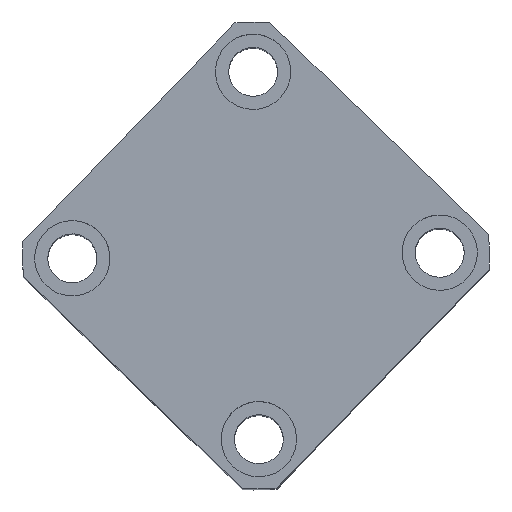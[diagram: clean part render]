
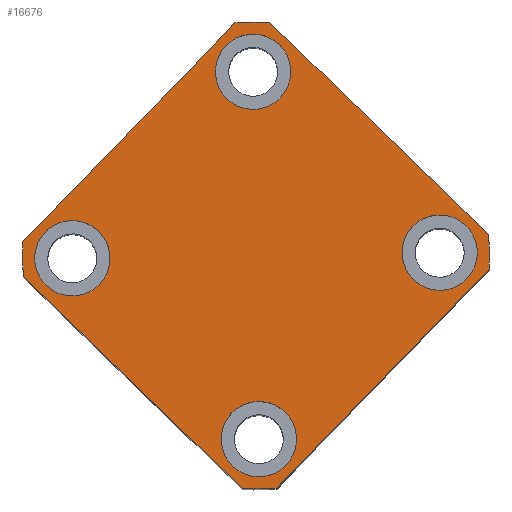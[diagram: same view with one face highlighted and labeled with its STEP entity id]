
A CAD part, top view. The second image highlights one B-rep face of the part: STEP entity #16676.
In plain terms, the highlighted planar face has unit normal (0, 0, 1) as drawn and (0, 0, -1) by its records, which use the part's own axes.
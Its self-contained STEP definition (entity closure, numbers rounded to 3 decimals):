
#100 = CARTESIAN_POINT ( 'NONE',  ( 44.5, 34.5, 0. ) ) ;
#189 = CARTESIAN_POINT ( 'NONE',  ( -34.5, 34.5, 0. ) ) ;
#232 = DIRECTION ( 'NONE',  ( 1., 0., 0. ) ) ;
#249 = CIRCLE ( 'NONE', #2261, 62. ) ;
#570 = DIRECTION ( 'NONE',  ( 1., 0., 0. ) ) ;
#724 = DIRECTION ( 'NONE',  ( -1., 0., 0. ) ) ;
#800 = DIRECTION ( 'NONE',  ( -1., 0., 0. ) ) ;
#943 = CARTESIAN_POINT ( 'NONE',  ( 34.5, 34.5, 0. ) ) ;
#957 = CARTESIAN_POINT ( 'NONE',  ( 44.5, -34.5, 0. ) ) ;
#1315 = CIRCLE ( 'NONE', #5889, 10. ) ;
#1361 = LINE ( 'NONE', #12590, #6019 ) ;
#1940 = DIRECTION ( 'NONE',  ( -1., 0., 0. ) ) ;
#2261 = AXIS2_PLACEMENT_3D ( 'NONE', #20902, #10550, #232 ) ;
#2577 = EDGE_CURVE ( 'NONE', #21728, #10516, #1315, .T. ) ;
#2611 = CARTESIAN_POINT ( 'NONE',  ( -34.5, -34.5, 0. ) ) ;
#2687 = DIRECTION ( 'NONE',  ( -1., 0., 0. ) ) ;
#2879 = CARTESIAN_POINT ( 'NONE',  ( -44.5, 34.5, 0. ) ) ;
#2984 = CIRCLE ( 'NONE', #15141, 62. ) ;
#3000 = EDGE_CURVE ( 'NONE', #13646, #13406, #15275, .T. ) ;
#3340 = VERTEX_POINT ( 'NONE', #12423 ) ;
#3439 = CIRCLE ( 'NONE', #16165, 10. ) ;
#3815 = FACE_BOUND ( 'NONE', #8290, .T. ) ;
#4185 = EDGE_CURVE ( 'NONE', #3340, #17961, #13912, .T. ) ;
#4347 = ORIENTED_EDGE ( 'NONE', *, *, #16322, .F. ) ;
#4373 = FACE_BOUND ( 'NONE', #19324, .T. ) ;
#4382 = DIRECTION ( 'NONE',  ( -1., 0., 0. ) ) ;
#4762 = AXIS2_PLACEMENT_3D ( 'NONE', #943, #12948, #2687 ) ;
#4823 = LINE ( 'NONE', #20859, #13343 ) ;
#4929 = VECTOR ( 'NONE', #21360, 1000. ) ;
#4934 = CARTESIAN_POINT ( 'NONE',  ( -34.5, -34.5, 0. ) ) ;
#5044 = EDGE_CURVE ( 'NONE', #21215, #3340, #17150, .T. ) ;
#5452 = DIRECTION ( 'NONE',  ( -1., 0., 0. ) ) ;
#5600 = VERTEX_POINT ( 'NONE', #10068 ) ;
#5838 = EDGE_CURVE ( 'NONE', #9718, #16899, #9382, .T. ) ;
#5889 = AXIS2_PLACEMENT_3D ( 'NONE', #2611, #14597, #4382 ) ;
#5930 = EDGE_CURVE ( 'NONE', #17961, #17036, #4823, .T. ) ;
#6019 = VECTOR ( 'NONE', #570, 1000. ) ;
#6203 = ORIENTED_EDGE ( 'NONE', *, *, #3000, .F. ) ;
#6292 = CARTESIAN_POINT ( 'NONE',  ( -24.5, 34.5, 0. ) ) ;
#6352 = AXIS2_PLACEMENT_3D ( 'NONE', #4934, #16889, #6671 ) ;
#6671 = DIRECTION ( 'NONE',  ( -1., 0., 0. ) ) ;
#6918 = DIRECTION ( 'NONE',  ( 0., 0., 1. ) ) ;
#7008 = AXIS2_PLACEMENT_3D ( 'NONE', #7095, #19091, #8792 ) ;
#7066 = AXIS2_PLACEMENT_3D ( 'NONE', #189, #12217, #1940 ) ;
#7095 = CARTESIAN_POINT ( 'NONE',  ( 0., 0., 0. ) ) ;
#7177 = ORIENTED_EDGE ( 'NONE', *, *, #16097, .F. ) ;
#7196 = CARTESIAN_POINT ( 'NONE',  ( 0., 0., 0. ) ) ;
#7393 = CARTESIAN_POINT ( 'NONE',  ( -34.5, 34.5, 0. ) ) ;
#7463 = DIRECTION ( 'NONE',  ( 0., 0., -1. ) ) ;
#7770 = EDGE_LOOP ( 'NONE', ( #8712, #21101 ) ) ;
#7833 = ORIENTED_EDGE ( 'NONE', *, *, #20006, .F. ) ;
#8290 = EDGE_LOOP ( 'NONE', ( #12618, #20536 ) ) ;
#8563 = CARTESIAN_POINT ( 'NONE',  ( 40.435, -47., 0. ) ) ;
#8712 = ORIENTED_EDGE ( 'NONE', *, *, #21129, .F. ) ;
#8792 = DIRECTION ( 'NONE',  ( 1., 0., 0. ) ) ;
#8942 = DIRECTION ( 'NONE',  ( 0., 0., 1. ) ) ;
#9089 = DIRECTION ( 'NONE',  ( -1., 0., 0. ) ) ;
#9376 = DIRECTION ( 'NONE',  ( 0., 1., 0. ) ) ;
#9382 = CIRCLE ( 'NONE', #7066, 10. ) ;
#9481 = LINE ( 'NONE', #17764, #4929 ) ;
#9718 = VERTEX_POINT ( 'NONE', #2879 ) ;
#10068 = CARTESIAN_POINT ( 'NONE',  ( 24.5, 34.5, 0. ) ) ;
#10516 = VERTEX_POINT ( 'NONE', #15284 ) ;
#10550 = DIRECTION ( 'NONE',  ( 0., 0., 1. ) ) ;
#10759 = EDGE_CURVE ( 'NONE', #21498, #21215, #18227, .T. ) ;
#11023 = EDGE_CURVE ( 'NONE', #16899, #9718, #3439, .T. ) ;
#11038 = DIRECTION ( 'NONE',  ( 0., 0., -1. ) ) ;
#11089 = CARTESIAN_POINT ( 'NONE',  ( 47., 47., 0. ) ) ;
#11115 = DIRECTION ( 'NONE',  ( 0., 0., -1. ) ) ;
#11330 = CIRCLE ( 'NONE', #6352, 10. ) ;
#11409 = VERTEX_POINT ( 'NONE', #14855 ) ;
#11575 = AXIS2_PLACEMENT_3D ( 'NONE', #17712, #7463, #19470 ) ;
#11756 = EDGE_LOOP ( 'NONE', ( #21519, #21333, #12517, #4347, #18384, #7833, #7177, #17388 ) ) ;
#11798 = CARTESIAN_POINT ( 'NONE',  ( -44.5, -34.5, 0. ) ) ;
#11948 = ORIENTED_EDGE ( 'NONE', *, *, #20889, .F. ) ;
#12052 = AXIS2_PLACEMENT_3D ( 'NONE', #21472, #11115, #800 ) ;
#12217 = DIRECTION ( 'NONE',  ( 0., 0., -1. ) ) ;
#12233 = EDGE_CURVE ( 'NONE', #17434, #5600, #18742, .T. ) ;
#12283 = EDGE_LOOP ( 'NONE', ( #20626, #18224 ) ) ;
#12390 = DIRECTION ( 'NONE',  ( 0., 0., 1. ) ) ;
#12423 = CARTESIAN_POINT ( 'NONE',  ( 47., 40.435, 0. ) ) ;
#12517 = ORIENTED_EDGE ( 'NONE', *, *, #10759, .F. ) ;
#12590 = CARTESIAN_POINT ( 'NONE',  ( -47., -47., 0. ) ) ;
#12618 = ORIENTED_EDGE ( 'NONE', *, *, #5838, .F. ) ;
#12909 = FACE_BOUND ( 'NONE', #12283, .T. ) ;
#12948 = DIRECTION ( 'NONE',  ( 0., 0., -1. ) ) ;
#13305 = CARTESIAN_POINT ( 'NONE',  ( 47., -40.435, 0. ) ) ;
#13343 = VECTOR ( 'NONE', #5452, 1000. ) ;
#13406 = VERTEX_POINT ( 'NONE', #957 ) ;
#13646 = VERTEX_POINT ( 'NONE', #20321 ) ;
#13912 = CIRCLE ( 'NONE', #19857, 62. ) ;
#14270 = CIRCLE ( 'NONE', #12052, 10. ) ;
#14597 = DIRECTION ( 'NONE',  ( 0., 0., -1. ) ) ;
#14855 = CARTESIAN_POINT ( 'NONE',  ( -47., -40.435, 0. ) ) ;
#15141 = AXIS2_PLACEMENT_3D ( 'NONE', #19241, #8942, #21006 ) ;
#15275 = CIRCLE ( 'NONE', #11575, 10. ) ;
#15284 = CARTESIAN_POINT ( 'NONE',  ( -24.5, -34.5, 0. ) ) ;
#15444 = VERTEX_POINT ( 'NONE', #20944 ) ;
#16097 = EDGE_CURVE ( 'NONE', #17036, #15444, #2984, .T. ) ;
#16165 = AXIS2_PLACEMENT_3D ( 'NONE', #7393, #19399, #9089 ) ;
#16322 = EDGE_CURVE ( 'NONE', #19220, #21498, #1361, .T. ) ;
#16676 = ADVANCED_FACE ( 'NONE', ( #4373, #12909, #3815, #17503, #16944 ), #17588, .F. ) ;
#16889 = DIRECTION ( 'NONE',  ( 0., 0., -1. ) ) ;
#16899 = VERTEX_POINT ( 'NONE', #6292 ) ;
#16944 = FACE_OUTER_BOUND ( 'NONE', #11756, .T. ) ;
#17036 = VERTEX_POINT ( 'NONE', #18553 ) ;
#17147 = CARTESIAN_POINT ( 'NONE',  ( 0., 0., 0. ) ) ;
#17150 = LINE ( 'NONE', #11089, #17708 ) ;
#17388 = ORIENTED_EDGE ( 'NONE', *, *, #5930, .F. ) ;
#17434 = VERTEX_POINT ( 'NONE', #100 ) ;
#17503 = FACE_BOUND ( 'NONE', #7770, .T. ) ;
#17588 = PLANE ( 'NONE',  #19396 ) ;
#17708 = VECTOR ( 'NONE', #9376, 1000. ) ;
#17712 = CARTESIAN_POINT ( 'NONE',  ( 34.5, -34.5, 0. ) ) ;
#17764 = CARTESIAN_POINT ( 'NONE',  ( -47., 47., 0. ) ) ;
#17961 = VERTEX_POINT ( 'NONE', #18022 ) ;
#18022 = CARTESIAN_POINT ( 'NONE',  ( 40.435, 47., 0. ) ) ;
#18221 = EDGE_CURVE ( 'NONE', #11409, #19220, #249, .T. ) ;
#18224 = ORIENTED_EDGE ( 'NONE', *, *, #20447, .F. ) ;
#18227 = CIRCLE ( 'NONE', #7008, 62. ) ;
#18384 = ORIENTED_EDGE ( 'NONE', *, *, #18221, .F. ) ;
#18553 = CARTESIAN_POINT ( 'NONE',  ( -40.435, 47., 0. ) ) ;
#18742 = CIRCLE ( 'NONE', #18759, 10. ) ;
#18759 = AXIS2_PLACEMENT_3D ( 'NONE', #21394, #11038, #724 ) ;
#18904 = DIRECTION ( 'NONE',  ( 1., 0., 0. ) ) ;
#19091 = DIRECTION ( 'NONE',  ( 0., 0., 1. ) ) ;
#19220 = VERTEX_POINT ( 'NONE', #21264 ) ;
#19241 = CARTESIAN_POINT ( 'NONE',  ( 0., 0., 0. ) ) ;
#19324 = EDGE_LOOP ( 'NONE', ( #6203, #11948 ) ) ;
#19352 = DIRECTION ( 'NONE',  ( 1., 0., 0. ) ) ;
#19396 = AXIS2_PLACEMENT_3D ( 'NONE', #7196, #12390, #19352 ) ;
#19399 = DIRECTION ( 'NONE',  ( 0., 0., -1. ) ) ;
#19470 = DIRECTION ( 'NONE',  ( -1., 0., 0. ) ) ;
#19857 = AXIS2_PLACEMENT_3D ( 'NONE', #17147, #6918, #18904 ) ;
#20006 = EDGE_CURVE ( 'NONE', #15444, #11409, #9481, .T. ) ;
#20321 = CARTESIAN_POINT ( 'NONE',  ( 24.5, -34.5, 0. ) ) ;
#20447 = EDGE_CURVE ( 'NONE', #10516, #21728, #11330, .T. ) ;
#20536 = ORIENTED_EDGE ( 'NONE', *, *, #11023, .F. ) ;
#20626 = ORIENTED_EDGE ( 'NONE', *, *, #2577, .F. ) ;
#20859 = CARTESIAN_POINT ( 'NONE',  ( -47., 47., 0. ) ) ;
#20889 = EDGE_CURVE ( 'NONE', #13406, #13646, #14270, .T. ) ;
#20902 = CARTESIAN_POINT ( 'NONE',  ( 0., 0., 0. ) ) ;
#20944 = CARTESIAN_POINT ( 'NONE',  ( -47., 40.435, 0. ) ) ;
#21006 = DIRECTION ( 'NONE',  ( 1., 0., 0. ) ) ;
#21101 = ORIENTED_EDGE ( 'NONE', *, *, #12233, .F. ) ;
#21129 = EDGE_CURVE ( 'NONE', #5600, #17434, #21350, .T. ) ;
#21215 = VERTEX_POINT ( 'NONE', #13305 ) ;
#21264 = CARTESIAN_POINT ( 'NONE',  ( -40.435, -47., 0. ) ) ;
#21333 = ORIENTED_EDGE ( 'NONE', *, *, #5044, .F. ) ;
#21350 = CIRCLE ( 'NONE', #4762, 10. ) ;
#21360 = DIRECTION ( 'NONE',  ( 0., -1., 0. ) ) ;
#21394 = CARTESIAN_POINT ( 'NONE',  ( 34.5, 34.5, 0. ) ) ;
#21472 = CARTESIAN_POINT ( 'NONE',  ( 34.5, -34.5, 0. ) ) ;
#21498 = VERTEX_POINT ( 'NONE', #8563 ) ;
#21519 = ORIENTED_EDGE ( 'NONE', *, *, #4185, .F. ) ;
#21728 = VERTEX_POINT ( 'NONE', #11798 ) ;
